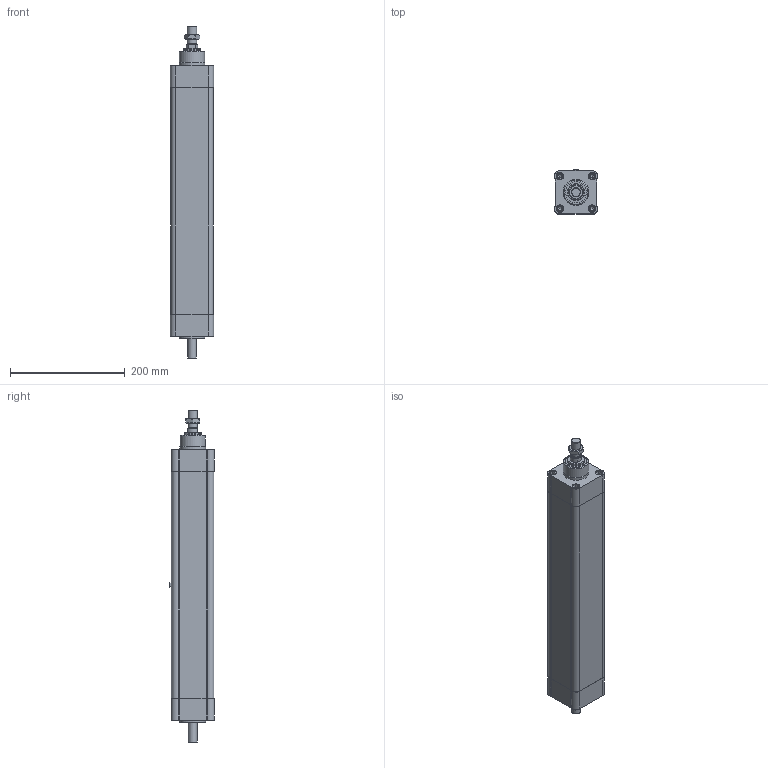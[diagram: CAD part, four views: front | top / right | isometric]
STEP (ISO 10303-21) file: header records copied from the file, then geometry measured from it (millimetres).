
FILE_DESCRIPTION(/* description */ ('STEP AP203'),/* implementation_level */ '2;1');
FILE_NAME(/* name */ 'PNCE 63 BS 2505 300 S(0)',/* time_stamp */ '2025-01-28T16:06:51+01:00',/* author */ ('License CC BY-ND 4.0'),/* organization */ ('CADENAS'),/* preprocessor_version */ 'ST-DEVELOPER v19.3',/* originating_system */ 'PARTsolutions',/* authorisation */ ' ');
FILE_SCHEMA (('CONFIG_CONTROL_DESIGN'));
Length unit declared in the file: millimetre
Products named in the file (6): PNCE 63 BS 2505 300 S(0); PNCE 63_drive cap; PNCE 63 300 S(0)_cylinder profil; PNCE 63_front cap; PNCE 63 300 S 0_piston rod; PNCE 63_nut
Assembly tree (5 placements, depth 2):
  PNCE 63 BS 2505 300 S(0)
    PNCE 63_drive cap
    PNCE 63 300 S(0)_cylinder profil
    PNCE 63_front cap
    PNCE 63 300 S 0_piston rod
    PNCE 63_nut
Bounding box: 74.97 x 77.5 x 578 mm (x, y, z)
Volume: 1960448.3 mm3; surface area: 360295.8 mm2
Topology: 5 solids, 5 shells, 256 faces, 576 edges, 380 vertices
Faces by surface type: plane 136, cylinder 90, cone 30
Full cylindrical faces by diameter (mm): 5.3 x1, 6.647 x8, 6.7 x4, 8 x8, 8.566 x1, 8.7 x4, 12 x8, 13 x8, 14.2 x1, 14.376 x1, 15 x1, 16 x1, 29.8 x1, 30 x2, 34 x1, 37 x1, 44 x1, 45 x2, 57 x2, 58 x2
Entity records: 8222 total; most frequent: DIRECTION 1168, CARTESIAN_POINT 1165, ORIENTED_EDGE 920, AXIS2_PLACEMENT_3D 462, EDGE_CURVE 460, FACE_BOUND 415, EDGE_LOOP 406, VERTEX_POINT 359
